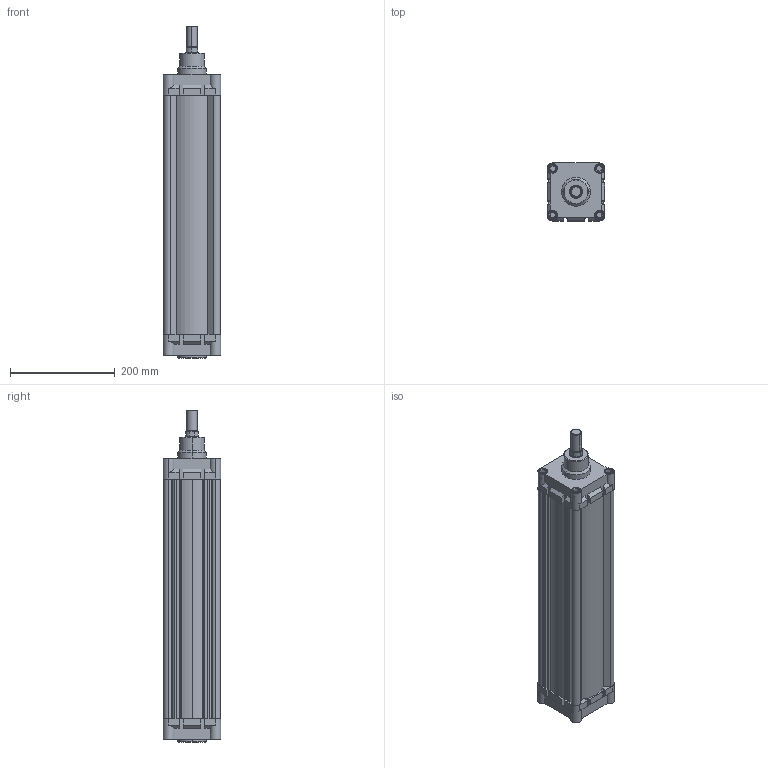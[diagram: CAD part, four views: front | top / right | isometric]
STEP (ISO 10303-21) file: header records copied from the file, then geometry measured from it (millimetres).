
FILE_DESCRIPTION (( 'STEP AP214' ), '1' );
FILE_NAME ('RIC100_400_MY_WEB.STEP', '2020-09-10T17:49:12', ( '' ), ( '' ), 'SwSTEP 2.0', 'SolidWorks 2018', '' );
FILE_SCHEMA (( 'AUTOMOTIVE_DESIGN' ));
Length unit declared in the file: millimetre
Products named in the file (6): RIC100_400_MY_WEB; 25_K_MIL_WEB; rýc100arkakapak; M12 KAPAK CÝVATASI; RIC_100_BORU_WEB; RIC_100_ON_KAPAK_WEB
Assembly tree (12 placements, depth 2):
  RIC100_400_MY_WEB
    RIC_100_ON_KAPAK_WEB
    RIC_100_BORU_WEB
    rýc100arkakapak
    M12 KAPAK CÝVATASI  x8
    25_K_MIL_WEB
Bounding box: 110 x 110 x 634 mm (x, y, z)
Volume: 2209647.1 mm3; surface area: 590107.8 mm2
Topology: 12 solids, 12 shells, 717 faces, 1793 edges, 1155 vertices
Faces by surface type: plane 362, cylinder 209, bspline 81, cone 59, torus 6
Entity records: 22464 total; most frequent: CARTESIAN_POINT 7800, ORIENTED_EDGE 2746, DIRECTION 2408, EDGE_CURVE 1373, VERTEX_POINT 903, LINE 826, VECTOR 826, AXIS2_PLACEMENT_3D 791
